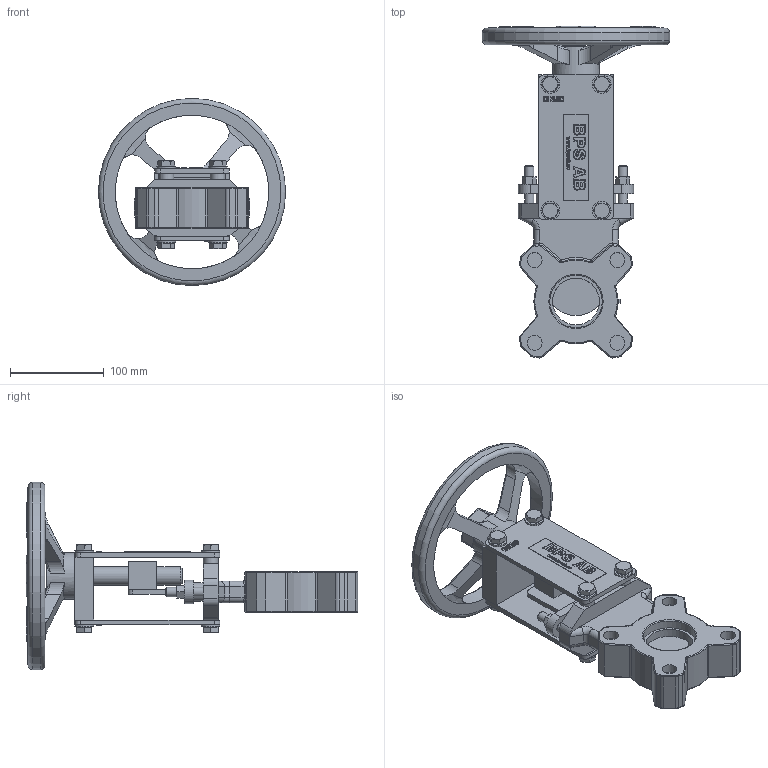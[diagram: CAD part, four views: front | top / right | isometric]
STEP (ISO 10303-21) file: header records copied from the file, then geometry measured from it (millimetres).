
FILE_DESCRIPTION((''),'2;1');
FILE_NAME('Z:\Kunder\BPS\BPS Produkter\BPS 2015\DN 50\Ritningar\BPS 2015050.stp','2012-12-28T10:36:31',('James'),(''),'Autodesk Inventor 2013','Autodesk Inventor 2013','');
FILE_SCHEMA(('AUTOMOTIVE_DESIGN { 1 2 10303 214 0 1 1 1 }'));
Length unit declared in the file: millimetre
Products named in the file (2): BPS 2015050 (SubstituteLevelofDetail1); BPS 2015050
Assembly tree (1 placements, depth 2):
  BPS 2015050 (SubstituteLevelofDetail1)
    BPS 2015050
Bounding box: 200 x 354.37 x 200 mm (x, y, z)
Volume: 1235186.3 mm3; surface area: 233483.4 mm2
Topology: 2 solids, 16 shells, 1114 faces, 2694 edges, 1700 vertices
Faces by surface type: plane 541, bspline 238, cylinder 205, torus 59, cone 55, sphere 16
Full cylindrical faces by diameter (mm): 8 x2, 10 x16, 10.5 x8, 14.63 x8, 16 x10, 20 x10, 50 x2, 56 x1, 164 x1, 200 x1
Entity records: 40073 total; most frequent: CARTESIAN_POINT 14677, ORIENTED_EDGE 5182, DIRECTION 4431, EDGE_CURVE 2591, VERTEX_POINT 1677, AXIS2_PLACEMENT_3D 1497, VECTOR 1437, LINE 1437
